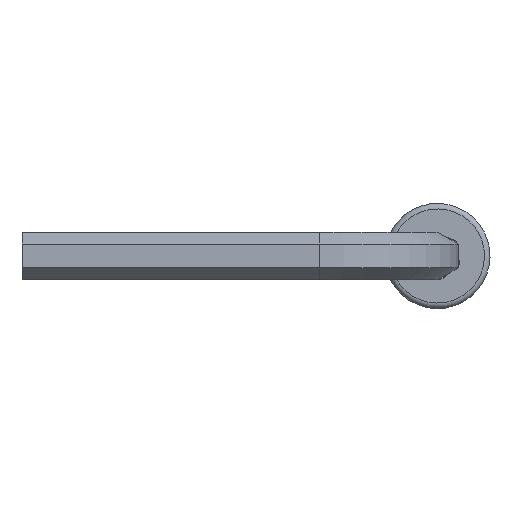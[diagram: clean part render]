
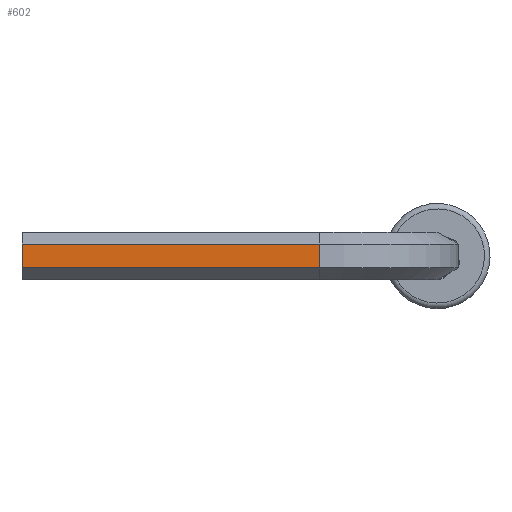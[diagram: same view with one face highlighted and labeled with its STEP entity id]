
A CAD part, left-side view. The second image highlights one B-rep face of the part: STEP entity #602.
In plain terms, the highlighted planar face has unit normal (-1, 0, 0).
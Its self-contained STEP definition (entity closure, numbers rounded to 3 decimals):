
#46=PLANE('',#681);
#88=LINE('',#1001,#140);
#95=LINE('',#1022,#147);
#96=LINE('',#1025,#148);
#97=LINE('',#1026,#149);
#140=VECTOR('',#809,10.);
#147=VECTOR('',#834,10.);
#148=VECTOR('',#837,10.);
#149=VECTOR('',#838,10.);
#189=FACE_OUTER_BOUND('',#226,.T.);
#226=EDGE_LOOP('',(#523,#524,#525,#526));
#297=VERTEX_POINT('',#994);
#299=VERTEX_POINT('',#1000);
#304=VERTEX_POINT('',#1019);
#305=VERTEX_POINT('',#1024);
#370=EDGE_CURVE('',#299,#297,#88,.T.);
#381=EDGE_CURVE('',#304,#297,#95,.T.);
#382=EDGE_CURVE('',#304,#305,#96,.T.);
#383=EDGE_CURVE('',#305,#299,#97,.T.);
#523=ORIENTED_EDGE('',*,*,#382,.F.);
#524=ORIENTED_EDGE('',*,*,#381,.T.);
#525=ORIENTED_EDGE('',*,*,#370,.F.);
#526=ORIENTED_EDGE('',*,*,#383,.F.);
#602=ADVANCED_FACE('',(#189),#46,.T.);
#681=AXIS2_PLACEMENT_3D('',#1023,#835,#836);
#809=DIRECTION('',(0.,0.,-1.));
#834=DIRECTION('',(0.,-1.,0.));
#835=DIRECTION('center_axis',(-1.,0.,0.));
#836=DIRECTION('ref_axis',(0.,0.,-1.));
#837=DIRECTION('',(0.,0.,1.));
#838=DIRECTION('',(0.,-1.,0.));
#994=CARTESIAN_POINT('',(-164.552,8.75,-67.86));
#1000=CARTESIAN_POINT('',(-164.552,8.75,-66.994));
#1001=CARTESIAN_POINT('',(-164.552,8.75,-67.86));
#1019=CARTESIAN_POINT('',(-164.552,19.5,-67.86));
#1022=CARTESIAN_POINT('',(-164.552,19.5,-67.86));
#1023=CARTESIAN_POINT('Origin',(-164.552,19.5,-66.994));
#1024=CARTESIAN_POINT('',(-164.552,19.5,-66.994));
#1025=CARTESIAN_POINT('',(-164.552,19.5,-67.86));
#1026=CARTESIAN_POINT('',(-164.552,19.5,-66.994));
